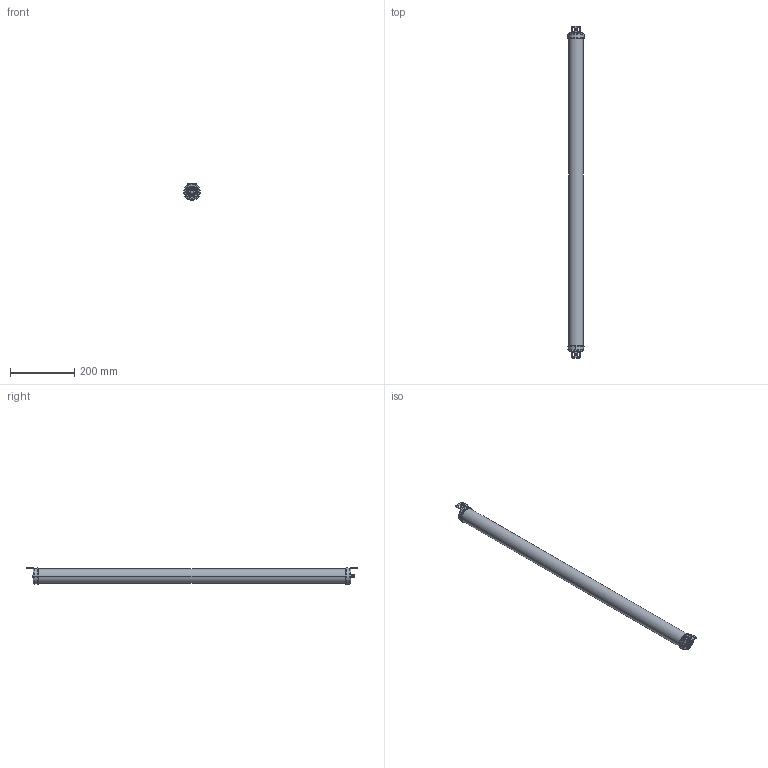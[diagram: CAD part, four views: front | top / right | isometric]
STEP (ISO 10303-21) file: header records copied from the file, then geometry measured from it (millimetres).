
FILE_DESCRIPTION((''),'2;1');
FILE_NAME('ESF_ASM','2024-01-10T15:19:02',('18565748720'),(''),'CREO PARAMETRIC BY PTC INC, 2022164','CREO PARAMETRIC BY PTC INC, 2022164','');
FILE_SCHEMA(('CONFIG_CONTROL_DESIGN'));
Length unit declared in the file: millimetre
Products named in the file (14): ESF-122000; ESF-1220000; 000; ST-3-18; M4--0001; 0002; ESF--00; M4-8; 000_ASM; M12--50001; M120001; ESF_ASM
Assembly tree (28 placements, depth 3):
  ESF_ASM
    ESF-122000
    ESF-1220000
    000_ASM
      000
      ST-3-18  x4
      M4--0001  x2
      0002
      ESF--00
      M4-8  x2
    000_ASM
      000
      ST-3-18  x4
      M4--0001  x2
      M12--50001
      0002
      M120001
      ESF--00
      M4-8  x2
Bounding box: 50.62 x 1033.09 x 50.8 mm (x, y, z)
Volume: 1157445.5 mm3; surface area: 467933.7 mm2
Topology: 40 solids, 46 shells, 3018 faces, 8303 edges, 5410 vertices
Faces by surface type: cylinder 1868, cone 412, plane 376, bspline 274, torus 84, revolution 4
Entity records: 47795 total; most frequent: CARTESIAN_POINT 22271, DIRECTION 5601, ORIENTED_EDGE 5212, EDGE_CURVE 2606, AXIS2_PLACEMENT_3D 2312, VERTEX_POINT 1711, CIRCLE 1310, EDGE_LOOP 1079
